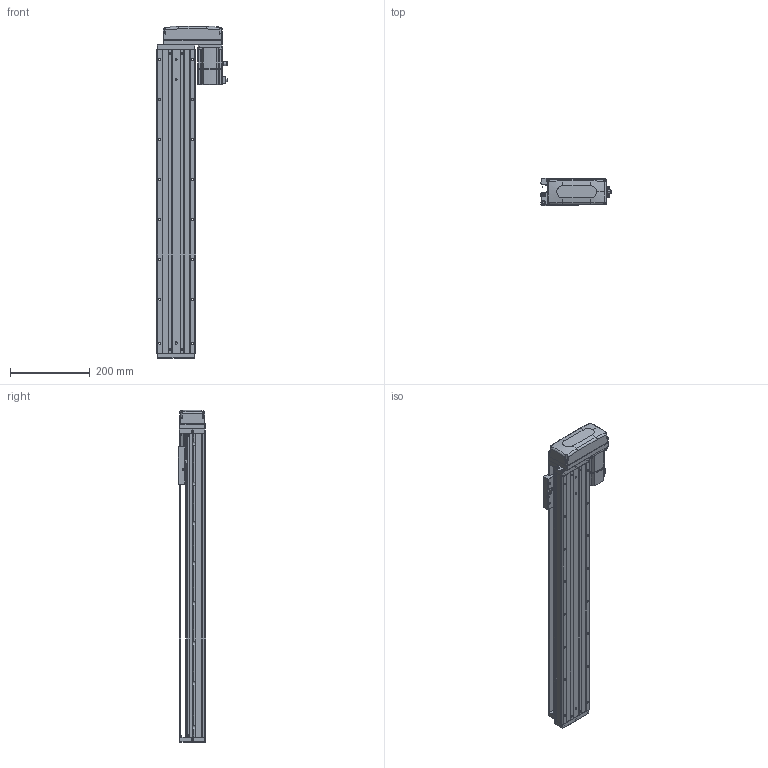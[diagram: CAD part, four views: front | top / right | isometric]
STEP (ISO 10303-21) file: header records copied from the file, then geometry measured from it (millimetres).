
FILE_DESCRIPTION (( 'STEP AP203' ), '1' );
FILE_NAME ('KTHA100-600-BL-M20-C4L.step', '2022-04-26T01:49:24', ( '微软用户' ), ( '微软中国' ), 'SwSTEP 2.0', 'SolidWorks 2020', '' );
FILE_SCHEMA (( 'CONFIG_CONTROL_DESIGN' ));
Length unit declared in the file: millimetre
Products named in the file (17): KTHA100-600-BL-M20-C4L; EE_SX911P_R; GBT70.1 M5℅16; CTHA60-017; CTHA60-016; KTHA100-001_760; CTHA60-021; GBT 70.3-M3℅6; KTHA100-002; GBT77-2000 M3×3; _X2_4E0983F1_X0_200W_1; KTHA100-004; GBT 70.1-M3℅6; CTHA86-015-1_CTHA86-015-2; KTHA100-005; CTHA86-033; GB¨uT 70.2-M3¡Á5_M3¡Á6
Assembly tree (57 placements, depth 2):
  KTHA100-600-BL-M20-C4L
    KTHA100-001_760
    KTHA100-002
    KTHA100-004
    KTHA100-005
    GB¨uT 70.2-M3¡Á5_M3¡Á6  x6
    EE_SX911P_R  x3
    CTHA60-017  x3
    CTHA60-021  x2
    GBT77-2000 M3×3  x6
    GBT 70.1-M3℅6  x10
    GBT70.1 M5℅16  x14
    CTHA60-016  x2
    GBT 70.3-M3℅6  x4
    _X2_4E0983F1_X0_200W_1
    CTHA86-015-1_CTHA86-015-2
    CTHA86-033
Bounding box: 177.7 x 68 x 831 mm (x, y, z)
Volume: 3693976.6 mm3; surface area: 603392 mm2
Topology: 60 solids, 60 shells, 2437 faces, 5833 edges, 3616 vertices
Faces by surface type: plane 1244, cylinder 677, cone 309, torus 116, bspline 75, sphere 16
Entity records: 41948 total; most frequent: CARTESIAN_POINT 8448, DIRECTION 6492, ORIENTED_EDGE 6278, EDGE_CURVE 3139, AXIS2_PLACEMENT_3D 2268, VERTEX_POINT 1976, LINE 1956, VECTOR 1956
